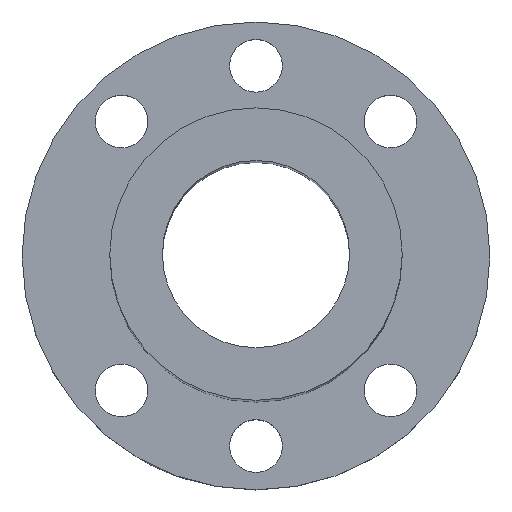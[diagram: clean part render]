
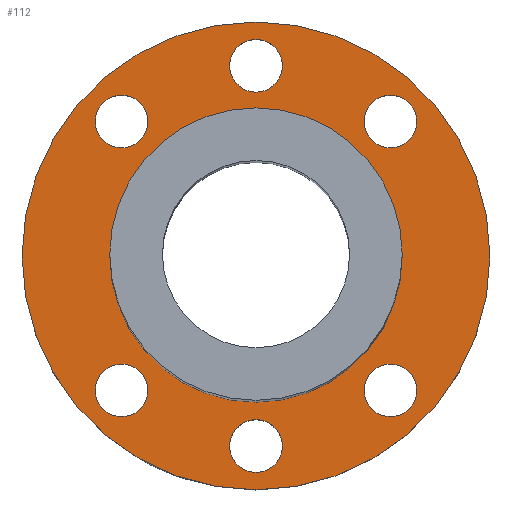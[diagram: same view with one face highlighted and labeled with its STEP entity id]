
A CAD part, top view. The second image highlights one B-rep face of the part: STEP entity #112.
In plain terms, the highlighted planar face has unit normal (0, 0, 1).
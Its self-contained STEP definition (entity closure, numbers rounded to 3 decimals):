
#99=PLANE('',#355);
#112=ADVANCED_FACE('',(#159,#160,#161,#162,#163,#164,#165,#166),#99,.T.);
#159=FACE_BOUND('',#203,.T.);
#160=FACE_BOUND('',#204,.T.);
#161=FACE_BOUND('',#205,.T.);
#162=FACE_BOUND('',#206,.T.);
#163=FACE_BOUND('',#207,.T.);
#164=FACE_BOUND('',#208,.T.);
#165=FACE_BOUND('',#209,.T.);
#166=FACE_BOUND('',#210,.T.);
#203=EDGE_LOOP('',(#247));
#204=EDGE_LOOP('',(#248));
#205=EDGE_LOOP('',(#249));
#206=EDGE_LOOP('',(#250));
#207=EDGE_LOOP('',(#251));
#208=EDGE_LOOP('',(#252));
#209=EDGE_LOOP('',(#253));
#210=EDGE_LOOP('',(#254));
#247=ORIENTED_EDGE('',*,*,#284,.T.);
#248=ORIENTED_EDGE('',*,*,#301,.F.);
#249=ORIENTED_EDGE('',*,*,#300,.T.);
#250=ORIENTED_EDGE('',*,*,#286,.T.);
#251=ORIENTED_EDGE('',*,*,#299,.F.);
#252=ORIENTED_EDGE('',*,*,#298,.T.);
#253=ORIENTED_EDGE('',*,*,#297,.F.);
#254=ORIENTED_EDGE('',*,*,#302,.T.);
#262=VERTEX_POINT('',#437);
#264=VERTEX_POINT('',#499);
#275=VERTEX_POINT('',#582);
#276=VERTEX_POINT('',#585);
#277=VERTEX_POINT('',#588);
#278=VERTEX_POINT('',#591);
#279=VERTEX_POINT('',#594);
#280=VERTEX_POINT('',#597);
#284=EDGE_CURVE('',#262,#262,#306,.T.);
#286=EDGE_CURVE('',#264,#264,#307,.T.);
#297=EDGE_CURVE('',#275,#275,#317,.T.);
#298=EDGE_CURVE('',#276,#276,#318,.T.);
#299=EDGE_CURVE('',#277,#277,#319,.T.);
#300=EDGE_CURVE('',#278,#278,#320,.T.);
#301=EDGE_CURVE('',#279,#279,#321,.T.);
#302=EDGE_CURVE('',#280,#280,#322,.T.);
#306=CIRCLE('',#327,40.);
#307=CIRCLE('',#329,25.);
#317=CIRCLE('',#343,4.5);
#318=CIRCLE('',#345,4.5);
#319=CIRCLE('',#347,4.5);
#320=CIRCLE('',#349,4.5);
#321=CIRCLE('',#351,4.5);
#322=CIRCLE('',#353,4.5);
#327=AXIS2_PLACEMENT_3D('',#436,#365,#366);
#329=AXIS2_PLACEMENT_3D('',#498,#369,#370);
#343=AXIS2_PLACEMENT_3D('',#581,#397,#398);
#345=AXIS2_PLACEMENT_3D('',#584,#401,#402);
#347=AXIS2_PLACEMENT_3D('',#587,#405,#406);
#349=AXIS2_PLACEMENT_3D('',#590,#409,#410);
#351=AXIS2_PLACEMENT_3D('',#593,#413,#414);
#353=AXIS2_PLACEMENT_3D('',#596,#417,#418);
#355=AXIS2_PLACEMENT_3D('',#599,#421,#422);
#365=DIRECTION('',(0.,0.,1.));
#366=DIRECTION('',(1.,0.,0.));
#369=DIRECTION('',(0.,0.,-1.));
#370=DIRECTION('',(1.,0.,0.));
#397=DIRECTION('',(0.,0.,1.));
#398=DIRECTION('',(-1.,0.,0.));
#401=DIRECTION('',(0.,0.,-1.));
#402=DIRECTION('',(-1.,0.,0.));
#405=DIRECTION('',(0.,0.,1.));
#406=DIRECTION('',(1.,0.,0.));
#409=DIRECTION('',(0.,0.,-1.));
#410=DIRECTION('',(1.,0.,0.));
#413=DIRECTION('',(0.,0.,1.));
#414=DIRECTION('',(1.,0.,0.));
#417=DIRECTION('',(0.,0.,-1.));
#418=DIRECTION('',(1.,0.,0.));
#421=DIRECTION('',(0.,0.,1.));
#422=DIRECTION('',(1.,0.,0.));
#436=CARTESIAN_POINT('',(0.,0.,12.));
#437=CARTESIAN_POINT('',(40.,0.,12.));
#498=CARTESIAN_POINT('',(0.,0.,12.));
#499=CARTESIAN_POINT('',(25.,0.,12.));
#581=CARTESIAN_POINT('',(22.981,-22.981,12.));
#582=CARTESIAN_POINT('',(18.481,-22.981,12.));
#584=CARTESIAN_POINT('',(22.981,22.981,12.));
#585=CARTESIAN_POINT('',(18.481,22.981,12.));
#587=CARTESIAN_POINT('',(-22.981,22.981,12.));
#588=CARTESIAN_POINT('',(-18.481,22.981,12.));
#590=CARTESIAN_POINT('',(-22.981,-22.981,12.));
#591=CARTESIAN_POINT('',(-18.481,-22.981,12.));
#593=CARTESIAN_POINT('',(0.,32.5,12.));
#594=CARTESIAN_POINT('',(4.5,32.5,12.));
#596=CARTESIAN_POINT('',(0.,-32.5,12.));
#597=CARTESIAN_POINT('',(4.5,-32.5,12.));
#599=CARTESIAN_POINT('',(0.,16.25,12.));
